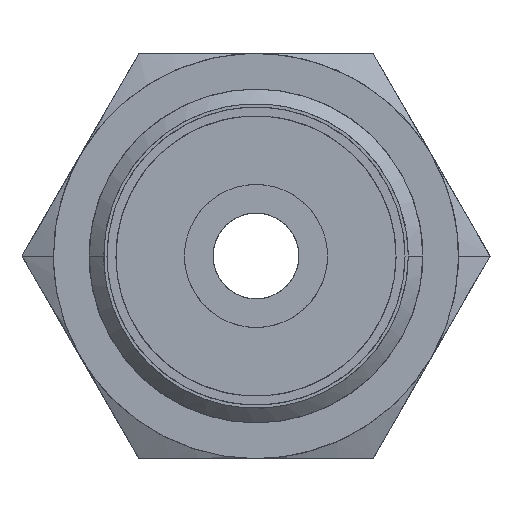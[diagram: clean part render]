
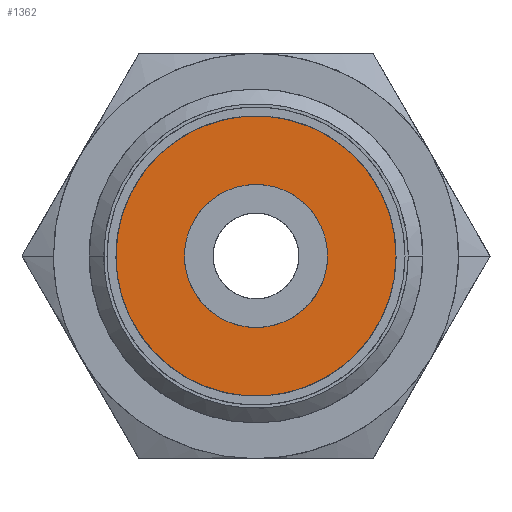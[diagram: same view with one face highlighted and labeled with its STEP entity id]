
A CAD part, left-side view. The second image highlights one B-rep face of the part: STEP entity #1362.
In plain terms, the highlighted planar face has unit normal (-1, 0, 0).
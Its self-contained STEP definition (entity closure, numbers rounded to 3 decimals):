
#1362=ADVANCED_FACE('',(#1462,#1394),#3322,.T.);
#1394=FACE_BOUND('',#1560,.T.);
#1462=FACE_OUTER_BOUND('',#1559,.T.);
#1559=EDGE_LOOP('',(#1763));
#1560=EDGE_LOOP('',(#1764));
#1763=ORIENTED_EDGE('',*,*,#2771,.T.);
#1764=ORIENTED_EDGE('',*,*,#2772,.T.);
#2015=PCURVE('',#3322,#2267);
#2016=PCURVE('',#3322,#2268);
#2267=DEFINITIONAL_REPRESENTATION('',(#3002),#6748);
#2268=DEFINITIONAL_REPRESENTATION('',(#3004),#6748);
#2519=SURFACE_CURVE('',#3001,(#2015),.PCURVE_S1.);
#2520=SURFACE_CURVE('',#3003,(#2016),.PCURVE_S1.);
#2771=EDGE_CURVE('',#3227,#3227,#2519,.T.);
#2772=EDGE_CURVE('',#3228,#3228,#2520,.T.);
#3001=(
BOUNDED_CURVE()
B_SPLINE_CURVE(2,(#5928,#5929,#5930,#5931,#5932,#5933,#5934,#5935,#5936),
 .UNSPECIFIED.,.T.,.F.)
B_SPLINE_CURVE_WITH_KNOTS((3,2,2,2,3),(3.142,4.712,
6.283,7.854,9.425),.UNSPECIFIED.)
CURVE()
GEOMETRIC_REPRESENTATION_ITEM()
RATIONAL_B_SPLINE_CURVE((1.,0.707,1.,0.707,1.,0.707,
1.,0.707,1.))
REPRESENTATION_ITEM('')
);
#3002=(
BOUNDED_CURVE()
B_SPLINE_CURVE(2,(#5937,#5938,#5939,#5940,#5941,#5942,#5943,#5944,#5945),
 .UNSPECIFIED.,.T.,.F.)
B_SPLINE_CURVE_WITH_KNOTS((3,2,2,2,3),(3.142,4.712,
6.283,7.854,9.425),.UNSPECIFIED.)
CURVE()
GEOMETRIC_REPRESENTATION_ITEM()
RATIONAL_B_SPLINE_CURVE((1.,0.707,1.,0.707,1.,0.707,
1.,0.707,1.))
REPRESENTATION_ITEM('')
);
#3003=(
BOUNDED_CURVE()
B_SPLINE_CURVE(2,(#5946,#5947,#5948,#5949,#5950,#5951,#5952,#5953,#5954),
 .UNSPECIFIED.,.T.,.F.)
B_SPLINE_CURVE_WITH_KNOTS((3,2,2,2,3),(0.,1.571,3.142,
4.712,6.283),.UNSPECIFIED.)
CURVE()
GEOMETRIC_REPRESENTATION_ITEM()
RATIONAL_B_SPLINE_CURVE((1.,0.707,1.,0.707,1.,0.707,
1.,0.707,1.))
REPRESENTATION_ITEM('')
);
#3004=(
BOUNDED_CURVE()
B_SPLINE_CURVE(2,(#5955,#5956,#5957,#5958,#5959,#5960,#5961,#5962,#5963),
 .UNSPECIFIED.,.T.,.F.)
B_SPLINE_CURVE_WITH_KNOTS((3,2,2,2,3),(0.,1.571,3.142,
4.712,6.283),.UNSPECIFIED.)
CURVE()
GEOMETRIC_REPRESENTATION_ITEM()
RATIONAL_B_SPLINE_CURVE((1.,0.707,1.,0.707,1.,0.707,
1.,0.707,1.))
REPRESENTATION_ITEM('')
);
#3227=VERTEX_POINT('',#5926);
#3228=VERTEX_POINT('',#5927);
#3322=PLANE('',#3391);
#3391=AXIS2_PLACEMENT_3D('',#5925,#3425,$);
#3425=DIRECTION('',(-1.,0.,0.));
#5925=CARTESIAN_POINT('',(-36.,5.875,-5.875));
#5926=CARTESIAN_POINT('',(-36.,-5.875,0.));
#5927=CARTESIAN_POINT('',(-36.,3.,0.));
#5928=CARTESIAN_POINT('',(-36.,-5.875,0.));
#5929=CARTESIAN_POINT('',(-36.,-5.875,5.875));
#5930=CARTESIAN_POINT('',(-36.,0.,5.875));
#5931=CARTESIAN_POINT('',(-36.,5.875,5.875));
#5932=CARTESIAN_POINT('',(-36.,5.875,0.));
#5933=CARTESIAN_POINT('',(-36.,5.875,-5.875));
#5934=CARTESIAN_POINT('',(-36.,0.,-5.875));
#5935=CARTESIAN_POINT('',(-36.,-5.875,-5.875));
#5936=CARTESIAN_POINT('',(-36.,-5.875,0.));
#5937=CARTESIAN_POINT('',(1.,0.5));
#5938=CARTESIAN_POINT('',(1.,1.));
#5939=CARTESIAN_POINT('',(0.5,1.));
#5940=CARTESIAN_POINT('',(0.,1.));
#5941=CARTESIAN_POINT('',(0.,0.5));
#5942=CARTESIAN_POINT('',(0.,0.));
#5943=CARTESIAN_POINT('',(0.5,0.));
#5944=CARTESIAN_POINT('',(1.,0.));
#5945=CARTESIAN_POINT('',(1.,0.5));
#5946=CARTESIAN_POINT('',(-36.,3.,0.));
#5947=CARTESIAN_POINT('',(-36.,3.,3.));
#5948=CARTESIAN_POINT('',(-36.,0.,3.));
#5949=CARTESIAN_POINT('',(-36.,-3.,3.));
#5950=CARTESIAN_POINT('',(-36.,-3.,0.));
#5951=CARTESIAN_POINT('',(-36.,-3.,-3.));
#5952=CARTESIAN_POINT('',(-36.,0.,-3.));
#5953=CARTESIAN_POINT('',(-36.,3.,-3.));
#5954=CARTESIAN_POINT('',(-36.,3.,0.));
#5955=CARTESIAN_POINT('',(0.245,0.5));
#5956=CARTESIAN_POINT('',(0.245,0.755));
#5957=CARTESIAN_POINT('',(0.5,0.755));
#5958=CARTESIAN_POINT('',(0.755,0.755));
#5959=CARTESIAN_POINT('',(0.755,0.5));
#5960=CARTESIAN_POINT('',(0.755,0.245));
#5961=CARTESIAN_POINT('',(0.5,0.245));
#5962=CARTESIAN_POINT('',(0.245,0.245));
#5963=CARTESIAN_POINT('',(0.245,0.5));
#6748=(
GEOMETRIC_REPRESENTATION_CONTEXT(2)
PARAMETRIC_REPRESENTATION_CONTEXT()
REPRESENTATION_CONTEXT('pspace','')
);
